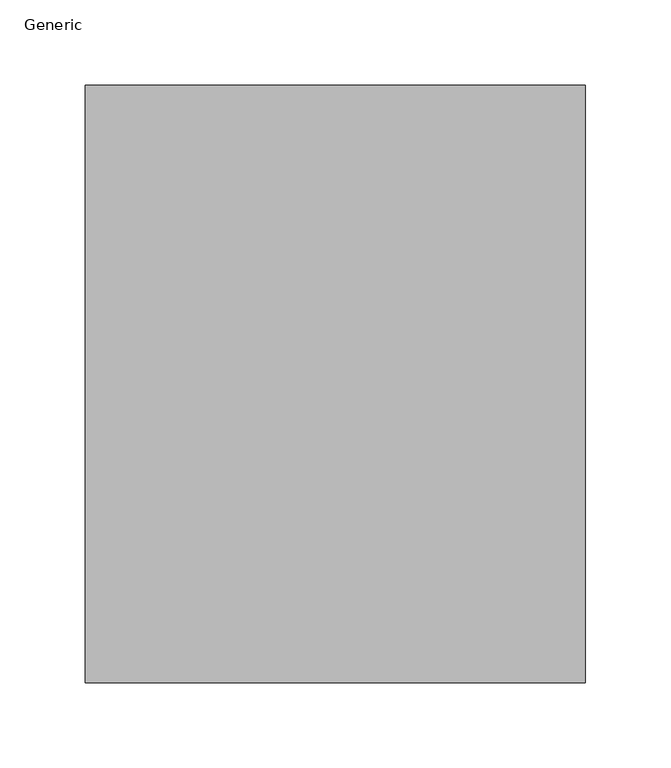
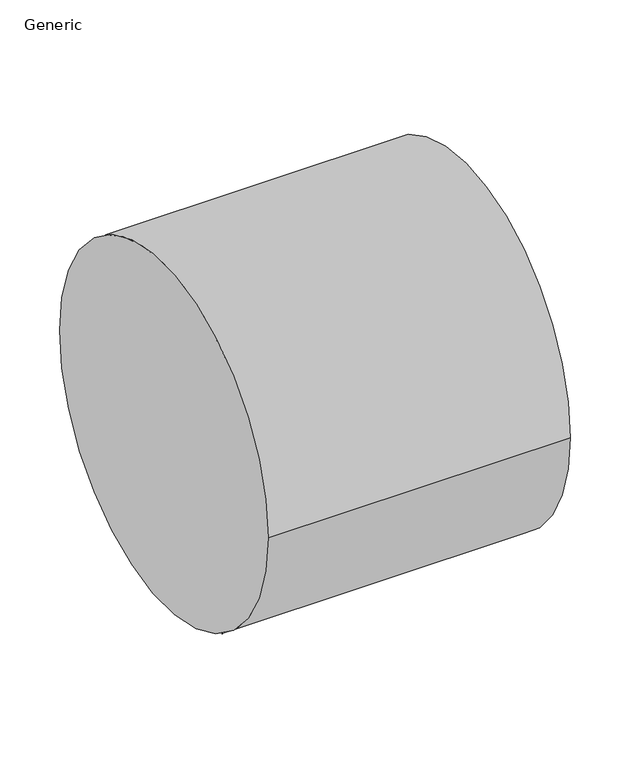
"""IFC4 building model written with IfcOpenShell, lengths in millimetres: proxy geometry, GM_Conduct : Generic."""

from ifc_helpers import new_model, si_unit, point, frame, frame_2d, origin, place, context, project, spatial, circle_curve, trimmed, segment, composite_curve, outline, extrude, source, transform, mapped, element, save


def generic_86a936d3(model_context):
    return source(origin(), model_context, "Body", "SweptSolid", [
        extrude(outline(composite_curve([segment(trimmed(circle_curve(frame_2d((0.0, 122.75)), 175.0), [point((175.0, 122.75))], [point((-175.0, 122.75))], False, "CARTESIAN"), True, "CONTINUOUS"), segment(trimmed(circle_curve(frame_2d((0.0, 122.75)), 175.0), [point((-175.0, 122.75))], [point((175.0, 122.75))], False, "CARTESIAN"), True, "CONTINUOUS")], self_intersect=False)), frame((0.0, 0.0, 0.0), z_axis=(1.0, 0.0, 0.0), x_axis=(0.0, 1.0, 0.0)), (0.0, 0.0, 1.0), 293.0),
    ])


if __name__ == "__main__":
    model = new_model("IFC4")
    model_context = context("Model", 3, world=origin())
    ifc_project = project(units=[si_unit("LENGTHUNIT", "METRE", prefix="MILLI")], contexts=[model_context])
    site = spatial("IfcSite", under=ifc_project)
    building = spatial("IfcBuilding", under=site)
    placement = place(None, origin())
    generic_shape = generic_86a936d3(model_context)
    element("IfcBuildingElementProxy", 1, Name="GM_Conduct : Generic", ObjectType="GM_Conduct : Generic", at=placement, inside=building, context=model_context, shape_type="MappedRepresentation", body=[
        mapped(generic_shape, transform((0.0, 0.0, 0.0), x_axis=(1.0, 0.0, 0.0), y_axis=(0.0, 1.0, 0.0), z_axis=(0.0, 0.0, 1.0))),
    ])
    save(model, "model.ifc")
